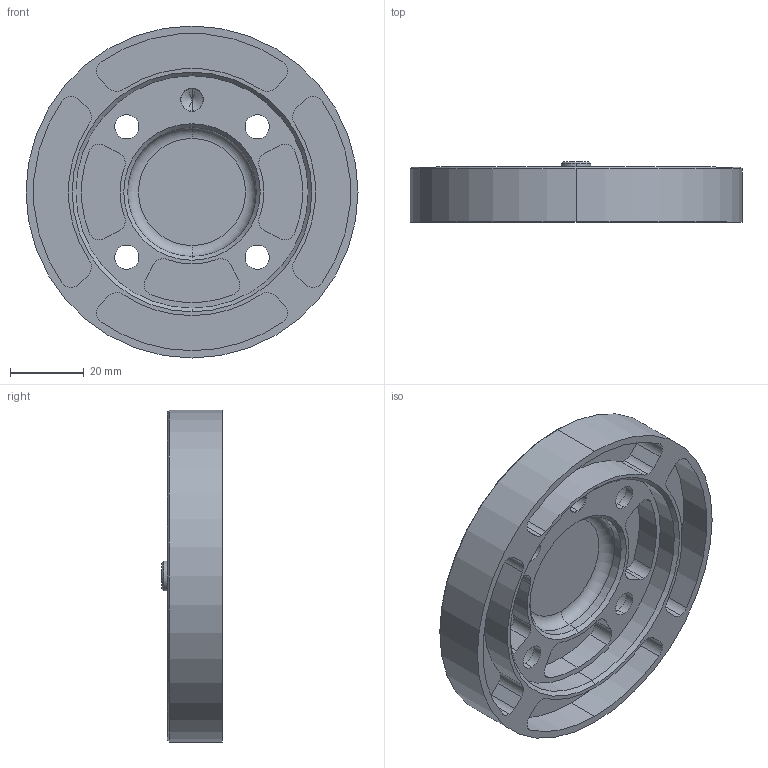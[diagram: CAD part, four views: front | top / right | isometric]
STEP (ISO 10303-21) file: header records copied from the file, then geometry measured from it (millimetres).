
FILE_DESCRIPTION (( 'STEP AP203' ), '1' );
FILE_NAME ('SusGrip2F_Adapter_Flange_ISO9409_50_4_M6.STEP', '2026-04-02T10:04:49', ( '' ), ( '' ), 'SwSTEP 2.0', 'SolidWorks 2021', '' );
FILE_SCHEMA (( 'CONFIG_CONTROL_DESIGN' ));
Length unit declared in the file: millimetre
Products named in the file (1): SusGrip2F_Adapter_Flange_ISO9409_50_4_M6
Bounding box: 90 x 16.4 x 90 mm (x, y, z)
Volume: 43302.3 mm3; surface area: 25280.7 mm2
Topology: 1 solids, 1 shells, 154 faces, 372 edges, 235 vertices
Faces by surface type: cylinder 90, plane 34, cone 28, torus 2
Entity records: 4613 total; most frequent: DIRECTION 882, CARTESIAN_POINT 756, ORIENTED_EDGE 732, EDGE_CURVE 366, AXIS2_PLACEMENT_3D 361, VERTEX_POINT 235, CIRCLE 206, EDGE_LOOP 183
